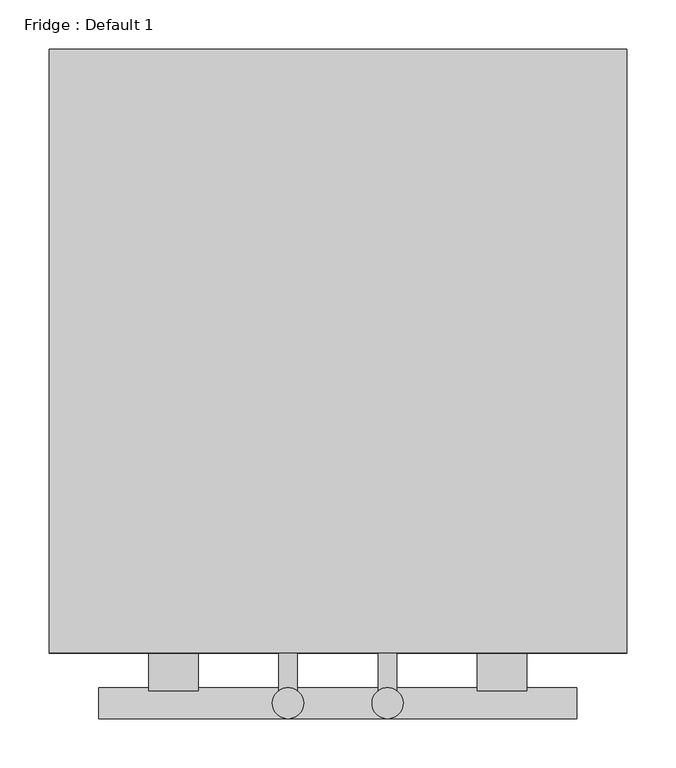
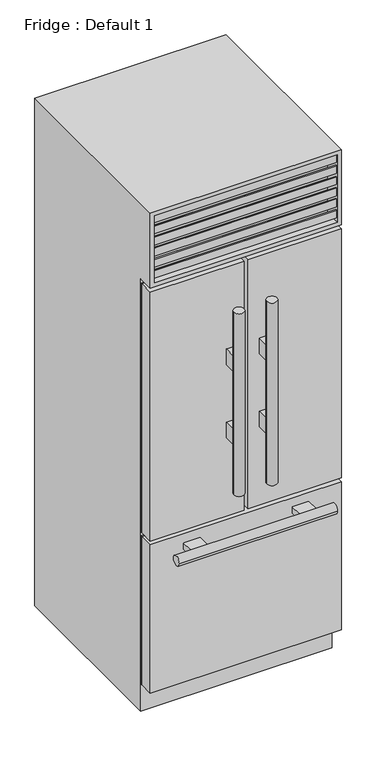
"""IFC4 building model written with IfcOpenShell, lengths in millimetres: proxy geometry, Fridge : Default 1."""

from ifc_helpers import new_model, si_unit, frame, origin, place, context, project, spatial, polyline, circle_curve, ellipse_curve, outline, extrude, faceted_brep, source, transform, mapped, element, save
from ifc_brep_helpers import plane_surface, cylinder_surface, advanced_brep


def fridge_default_1_af30f6d3(model_context):
    return source(origin(), model_context, "Body", "SolidModel", [
        extrude(outline(polyline([(-294.4915242, -671.5), (-6.35, -671.5), (-6.35, -715.95), (-294.4915242, -715.95), (-294.4915242, -671.5)])), frame((0.0, 0.0, 584.2), z_axis=(0.0, 0.0, 1.0), x_axis=(1.0, 0.0, 0.0)), (0.0, 0.0, 1.0), 809.625),
        extrude(outline(polyline([(6.35, -671.5), (294.4915242, -671.5), (294.4915242, -715.95), (6.35, -715.95), (6.35, -671.5)])), frame((0.0, 0.0, 584.2), z_axis=(0.0, 0.0, 1.0), x_axis=(1.0, 0.0, 0.0)), (0.0, 0.0, 1.0), 809.625),
        extrude(outline(polyline([(-294.4915242, -671.5), (294.4915242, -671.5), (294.4915242, -715.95), (-294.4915242, -715.95), (-294.4915242, -671.5)])), frame((0.0, 0.0, 88.9), z_axis=(0.0, 0.0, 1.0), x_axis=(1.0, 0.0, 0.0)), (0.0, 0.0, 1.0), 482.6),
        faceted_brep([(294.4915242, -715.95, 1651.0), (-294.4915242, -715.95, 1651.0), (-294.4915242, -715.95, 1406.525), (294.4915242, -715.95, 1406.525), (281.7915242, -715.95, 1638.3), (281.7915242, -715.95, 1419.225), (-281.7915242, -715.95, 1419.225), (-281.7915242, -715.95, 1638.3), (294.4915242, -100.0, 1651.0), (-294.4915242, -100.0, 1651.0), (-294.4915242, -100.0, 0.0), (-294.4915242, -665.15, 0.0), (-294.4915242, -665.15, 1406.525), (294.4915242, -665.15, 1406.525), (294.4915242, -665.15, 0.0), (294.4915242, -100.0, 0.0), (-281.7915242, -665.15, 1638.3), (281.7915242, -665.15, 1638.3), (-281.7915242, -665.15, 1419.225), (281.7915242, -665.15, 1419.225)], [[[0, 1, 2, 3], [4, 5, 6, 7]], [[1, 0, 8, 9]], [[2, 1, 9, 10, 11, 12]], [[3, 2, 12, 13]], [[8, 0, 3, 13, 14, 15]], [[4, 7, 16, 17]], [[7, 6, 18, 16]], [[6, 5, 19, 18]], [[5, 4, 17, 19]], [[15, 14, 11, 10]], [[9, 8, 15, 10]], [[17, 16, 18, 19]], [[11, 14, 13, 12]]]),
        extrude(outline(polyline([(-665.15, 1419.225), (-712.775, 1431.9860803), (-712.775, 1457.3860803), (-709.6, 1457.3860803), (-709.6, 1434.5368938), (-665.15, 1422.6265522), (-665.15, 1419.225)])), frame((-281.7915242, 0.0, 0.0), z_axis=(1.0, 0.0, 0.0), x_axis=(0.0, 1.0, 0.0)), (0.0, 0.0, 1.0), 563.5830484),
        extrude(outline(polyline([(-665.15, 1455.4077839), (-712.775, 1468.1688642), (-712.775, 1493.5688642), (-709.6, 1493.5688642), (-709.6, 1470.7196777), (-665.15, 1458.8093361), (-665.15, 1455.4077839)])), frame((-281.7915242, 0.0, 0.0), z_axis=(1.0, 0.0, 0.0), x_axis=(0.0, 1.0, 0.0)), (0.0, 0.0, 1.0), 563.5830484),
        extrude(outline(polyline([(-665.15, 1491.5905679), (-712.775, 1504.3516482), (-712.775, 1529.7516482), (-709.6, 1529.7516482), (-709.6, 1506.9024616), (-665.15, 1494.99212), (-665.15, 1491.5905679)])), frame((-281.7915242, 0.0, 0.0), z_axis=(1.0, 0.0, 0.0), x_axis=(0.0, 1.0, 0.0)), (0.0, 0.0, 1.0), 563.5830484),
        extrude(outline(polyline([(-665.15, 1527.7733518), (-712.775, 1540.5344321), (-712.775, 1565.9344321), (-709.6, 1565.9344321), (-709.6, 1543.0852456), (-665.15, 1531.174904), (-665.15, 1527.7733518)])), frame((-281.7915242, 0.0, 0.0), z_axis=(1.0, 0.0, 0.0), x_axis=(0.0, 1.0, 0.0)), (0.0, 0.0, 1.0), 563.5830484),
        extrude(outline(polyline([(-665.15, 1563.9561358), (-712.775, 1576.7172161), (-712.775, 1602.1172161), (-709.6, 1602.1172161), (-709.6, 1579.2680295), (-665.15, 1567.3576879), (-665.15, 1563.9561358)])), frame((-281.7915242, 0.0, 0.0), z_axis=(1.0, 0.0, 0.0), x_axis=(0.0, 1.0, 0.0)), (0.0, 0.0, 1.0), 563.5830484),
        extrude(outline(polyline([(-665.15, 1600.1389197), (-712.775, 1612.9), (-712.775, 1638.3), (-709.6, 1638.3), (-709.6, 1615.4508135), (-665.15, 1603.5404719), (-665.15, 1600.1389197)])), frame((-281.7915242, 0.0, 0.0), z_axis=(1.0, 0.0, 0.0), x_axis=(0.0, 1.0, 0.0)), (0.0, 0.0, 1.0), 563.5830484),
        advanced_brep(
        [(-288.1415242, -665.15, 565.15), (-288.1415242, -671.5, 565.15), (-288.1415242, -671.5, 95.25), (-288.1415242, -665.15, 95.25), (-291.3165242, -671.5, 568.325), (-291.3165242, -665.15, 568.325), (-291.3165242, -665.15, 92.075), (-291.3165242, -671.5, 92.075), (288.1415242, -671.5, 95.25), (288.1415242, -665.15, 95.25), (291.3165242, -665.15, 92.075), (291.3165242, -671.5, 92.075), (288.1415242, -671.5, 565.15), (288.1415242, -665.15, 565.15), (291.3165242, -665.15, 568.325), (291.3165242, -671.5, 568.325)],
        [
            (0, 1),
            (1, 2),
            (2, 3),
            (3, 0),
            (4, 5, ellipse_curve(frame((-291.3165242, -668.325, 568.325), z_axis=(-0.7071067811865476, 0.0, -0.7071067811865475), x_axis=(-0.7071067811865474, 0.0, 0.7071067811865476)), 4.4901281, 3.175)),
            (5, 6),
            (6, 7, ellipse_curve(frame((-291.3165242, -668.325, 92.075), z_axis=(-0.7071067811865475, 0.0, 0.7071067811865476), x_axis=(0.7071067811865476, 0.0, 0.7071067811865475)), 4.4901281, 3.175)),
            (7, 4),
            (2, 8),
            (8, 9),
            (9, 3),
            (6, 10),
            (10, 11, ellipse_curve(frame((291.3165242, -668.325, 92.075), z_axis=(-0.7071067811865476, 0.0, -0.7071067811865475), x_axis=(-0.7071067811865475, 0.0, 0.7071067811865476)), 4.4901281, 3.175)),
            (11, 7),
            (8, 12),
            (12, 13),
            (13, 9),
            (10, 14),
            (14, 15, ellipse_curve(frame((291.3165242, -668.325, 568.325), z_axis=(0.7071067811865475, 0.0, -0.7071067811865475), x_axis=(-0.7071067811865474, 0.0, -0.7071067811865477)), 4.4901281, 3.175)),
            (15, 11),
            (12, 1),
            (0, 13),
            (5, 14),
            (4, 15),
        ],
        [
            plane_surface(frame((-288.1415242, -671.5, 565.15), z_axis=(1.0, 0.0, 0.0), x_axis=(0.0, 0.0, -1.0))),
            cylinder_surface(frame((-291.3165242, -668.325, 571.5), z_axis=(0.0, 0.0, 1.0), x_axis=(0.0, -1.0, 0.0)), 3.175),
            plane_surface(frame((-288.1415242, -671.5, 95.25), z_axis=(0.0, 0.0, 1.0), x_axis=(1.0, 0.0, 0.0))),
            cylinder_surface(frame((-294.4915242, -668.325, 92.075), z_axis=(-1.0, 0.0, 0.0), x_axis=(0.0, -1.0, 0.0)), 3.175),
            plane_surface(frame((288.1415242, -671.5, 95.25), z_axis=(-1.0, 0.0, 0.0), x_axis=(0.0, 0.0, 1.0))),
            cylinder_surface(frame((291.3165242, -668.325, 88.9), z_axis=(0.0, 0.0, -1.0), x_axis=(0.0, -1.0, 0.0)), 3.175),
            plane_surface(frame((288.1415242, -671.5, 565.15), z_axis=(0.0, 0.0, -1.0), x_axis=(-1.0, 0.0, 0.0))),
            plane_surface(frame((288.1415242, -665.15, 565.15), z_axis=(0.0, 1.0, 0.0), x_axis=(-1.0, 0.0, 0.0))),
            cylinder_surface(frame((294.4915242, -668.325, 568.325), z_axis=(1.0, 0.0, 0.0), x_axis=(0.0, -1.0, 0.0)), 3.175),
            plane_surface(frame((291.3165242, -671.5, 568.325), z_axis=(0.0, -1.0, 0.0), x_axis=(-1.0, 0.0, 0.0))),
        ],
        [
            (0, [[1, 2, 3, 4]]),
            (1, [[5, 6, 7, 8]]),
            (2, [[-3, 9, 10, 11]]),
            (3, [[-7, 12, 13, 14]]),
            (4, [[-10, 15, 16, 17]]),
            (5, [[-13, 18, 19, 20]]),
            (6, [[-16, 21, -1, 22]]),
            (7, [[23, -18, -12, -6], [-11, -17, -22, -4]]),
            (8, [[-19, -23, -5, 24]]),
            (9, [[-14, -20, -24, -8], [-21, -15, -9, -2]]),
        ],
    ),
        advanced_brep(
        [(12.7, -665.15, 1387.475), (12.7, -671.5, 1387.475), (12.7, -671.5, 590.55), (12.7, -665.15, 590.55), (9.525, -671.5, 1390.65), (9.525, -665.15, 1390.65), (9.525, -665.15, 587.375), (9.525, -671.5, 587.375), (288.1415242, -671.5, 590.55), (288.1415242, -665.15, 590.55), (291.3165242, -665.15, 587.375), (291.3165242, -671.5, 587.375), (288.1415242, -671.5, 1387.475), (288.1415242, -665.15, 1387.475), (291.3165242, -665.15, 1390.65), (291.3165242, -671.5, 1390.65)],
        [
            (0, 1),
            (1, 2),
            (2, 3),
            (3, 0),
            (4, 5, ellipse_curve(frame((9.525, -668.325, 1390.65), z_axis=(-0.7071067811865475, 0.0, -0.7071067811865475), x_axis=(-0.7071067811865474, 0.0, 0.7071067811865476)), 4.4901281, 3.175)),
            (5, 6),
            (6, 7, ellipse_curve(frame((9.525, -668.325, 587.375), z_axis=(-0.7071067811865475, 0.0, 0.7071067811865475), x_axis=(0.7071067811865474, 0.0, 0.7071067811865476)), 4.4901281, 3.175)),
            (7, 4),
            (2, 8),
            (8, 9),
            (9, 3),
            (6, 10),
            (10, 11, ellipse_curve(frame((291.3165242, -668.325, 587.375), z_axis=(-0.7071067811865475, 0.0, -0.7071067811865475), x_axis=(-0.7071067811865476, 0.0, 0.7071067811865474)), 4.4901281, 3.175)),
            (11, 7),
            (8, 12),
            (12, 13),
            (13, 9),
            (10, 14),
            (14, 15, ellipse_curve(frame((291.3165242, -668.325, 1390.65), z_axis=(0.7071067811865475, 0.0, -0.7071067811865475), x_axis=(-0.7071067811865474, 0.0, -0.7071067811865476)), 4.4901281, 3.175)),
            (15, 11),
            (12, 1),
            (0, 13),
            (5, 14),
            (4, 15),
        ],
        [
            plane_surface(frame((12.7, -671.5, 1387.475), z_axis=(1.0, 0.0, 0.0), x_axis=(0.0, 0.0, -1.0))),
            cylinder_surface(frame((9.525, -668.325, 1393.825), z_axis=(0.0, 0.0, 1.0), x_axis=(0.0, -1.0, 0.0)), 3.175),
            plane_surface(frame((12.7, -671.5, 590.55), z_axis=(0.0, 0.0, 1.0), x_axis=(1.0, 0.0, 0.0))),
            cylinder_surface(frame((6.35, -668.325, 587.375), z_axis=(-1.0, 0.0, 0.0), x_axis=(0.0, -1.0, 0.0)), 3.175),
            plane_surface(frame((288.1415242, -671.5, 590.55), z_axis=(-1.0, 0.0, 0.0), x_axis=(0.0, 0.0, 1.0))),
            cylinder_surface(frame((291.3165242, -668.325, 584.2), z_axis=(0.0, 0.0, -1.0), x_axis=(0.0, -1.0, 0.0)), 3.175),
            plane_surface(frame((288.1415242, -671.5, 1387.475), z_axis=(0.0, 0.0, -1.0), x_axis=(-1.0, 0.0, 0.0))),
            plane_surface(frame((288.1415242, -665.15, 1387.475), z_axis=(0.0, 1.0, 0.0), x_axis=(-1.0, 0.0, 0.0))),
            cylinder_surface(frame((294.4915242, -668.325, 1390.65), z_axis=(1.0, 0.0, 0.0), x_axis=(0.0, -1.0, 0.0)), 3.175),
            plane_surface(frame((291.3165242, -671.5, 1390.65), z_axis=(0.0, -1.0, 0.0), x_axis=(-1.0, 0.0, 0.0))),
        ],
        [
            (0, [[1, 2, 3, 4]]),
            (1, [[5, 6, 7, 8]]),
            (2, [[-3, 9, 10, 11]]),
            (3, [[-7, 12, 13, 14]]),
            (4, [[-10, 15, 16, 17]]),
            (5, [[-13, 18, 19, 20]]),
            (6, [[-16, 21, -1, 22]]),
            (7, [[23, -18, -12, -6], [-11, -17, -22, -4]]),
            (8, [[-19, -23, -5, 24]]),
            (9, [[-14, -20, -24, -8], [-21, -15, -9, -2]]),
        ],
    ),
        advanced_brep(
        [(-288.1415242, -665.15, 1387.475), (-288.1415242, -671.5, 1387.475), (-288.1415242, -671.5, 590.55), (-288.1415242, -665.15, 590.55), (-291.3165242, -671.5, 1390.65), (-291.3165242, -665.15, 1390.65), (-291.3165242, -665.15, 587.375), (-291.3165242, -671.5, 587.375), (-12.7, -671.5, 590.55), (-12.7, -665.15, 590.55), (-9.525, -665.15, 587.375), (-9.525, -671.5, 587.375), (-12.7, -671.5, 1387.475), (-12.7, -665.15, 1387.475), (-9.525, -665.15, 1390.65), (-9.525, -671.5, 1390.65)],
        [
            (0, 1),
            (1, 2),
            (2, 3),
            (3, 0),
            (4, 5, ellipse_curve(frame((-291.3165242, -668.325, 1390.65), z_axis=(-0.7071067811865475, 0.0, -0.7071067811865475), x_axis=(-0.7071067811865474, 0.0, 0.7071067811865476)), 4.4901281, 3.175)),
            (5, 6),
            (6, 7, ellipse_curve(frame((-291.3165242, -668.325, 587.375), z_axis=(-0.7071067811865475, 0.0, 0.7071067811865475), x_axis=(0.7071067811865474, 0.0, 0.7071067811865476)), 4.4901281, 3.175)),
            (7, 4),
            (2, 8),
            (8, 9),
            (9, 3),
            (6, 10),
            (10, 11, ellipse_curve(frame((-9.525, -668.325, 587.375), z_axis=(-0.7071067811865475, 0.0, -0.7071067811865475), x_axis=(-0.7071067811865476, 0.0, 0.7071067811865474)), 4.4901281, 3.175)),
            (11, 7),
            (8, 12),
            (12, 13),
            (13, 9),
            (10, 14),
            (14, 15, ellipse_curve(frame((-9.525, -668.325, 1390.65), z_axis=(0.7071067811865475, 0.0, -0.7071067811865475), x_axis=(-0.7071067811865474, 0.0, -0.7071067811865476)), 4.4901281, 3.175)),
            (15, 11),
            (12, 1),
            (0, 13),
            (5, 14),
            (4, 15),
        ],
        [
            plane_surface(frame((-288.1415242, -671.5, 1387.475), z_axis=(1.0, 0.0, 0.0), x_axis=(0.0, 0.0, -1.0))),
            cylinder_surface(frame((-291.3165242, -668.325, 1393.825), z_axis=(0.0, 0.0, 1.0), x_axis=(0.0, -1.0, 0.0)), 3.175),
            plane_surface(frame((-288.1415242, -671.5, 590.55), z_axis=(0.0, 0.0, 1.0), x_axis=(1.0, 0.0, 0.0))),
            cylinder_surface(frame((-294.4915242, -668.325, 587.375), z_axis=(-1.0, 0.0, 0.0), x_axis=(0.0, -1.0, 0.0)), 3.175),
            plane_surface(frame((-12.7, -671.5, 590.55), z_axis=(-1.0, 0.0, 0.0), x_axis=(0.0, 0.0, 1.0))),
            cylinder_surface(frame((-9.525, -668.325, 584.2), z_axis=(0.0, 0.0, -1.0), x_axis=(0.0, -1.0, 0.0)), 3.175),
            plane_surface(frame((-12.7, -671.5, 1387.475), z_axis=(0.0, 0.0, -1.0), x_axis=(-1.0, 0.0, 0.0))),
            plane_surface(frame((-12.7, -665.15, 1387.475), z_axis=(0.0, 1.0, 0.0), x_axis=(-1.0, 0.0, 0.0))),
            cylinder_surface(frame((-6.35, -668.325, 1390.65), z_axis=(1.0, 0.0, 0.0), x_axis=(0.0, -1.0, 0.0)), 3.175),
            plane_surface(frame((-9.525, -671.5, 1390.65), z_axis=(0.0, -1.0, 0.0), x_axis=(-1.0, 0.0, 0.0))),
        ],
        [
            (0, [[1, 2, 3, 4]]),
            (1, [[5, 6, 7, 8]]),
            (2, [[-3, 9, 10, 11]]),
            (3, [[-7, 12, 13, 14]]),
            (4, [[-10, 15, 16, 17]]),
            (5, [[-13, 18, 19, 20]]),
            (6, [[-16, 21, -1, 22]]),
            (7, [[23, -18, -12, -6], [-11, -17, -22, -4]]),
            (8, [[-19, -23, -5, 24]]),
            (9, [[-14, -20, -24, -8], [-21, -15, -9, -2]]),
        ],
    ),
        advanced_brep(
        [(-142.0915242, -715.95, 542.925), (-142.0915242, -715.95, 523.875), (-192.8915242, -715.95, 523.875), (-192.8915242, -715.95, 542.925), (142.0915242, -715.95, 542.925), (192.8915242, -715.95, 542.925), (192.8915242, -715.95, 523.875), (142.0915242, -715.95, 523.875), (-142.0915242, -754.4241958, 542.925), (-142.0915242, -751.2491958, 533.4), (-142.0915242, -754.4241958, 523.875), (-192.8915242, -754.4241958, 523.875), (-192.8915242, -751.2491958, 533.4), (-192.8915242, -754.4241958, 542.925), (142.0915242, -754.4241958, 542.925), (192.8915242, -754.4241958, 542.925), (192.8915242, -751.2491958, 533.4), (192.8915242, -754.4241958, 523.875), (142.0915242, -754.4241958, 523.875), (142.0915242, -751.2491958, 533.4), (243.6915242, -782.9991958, 533.4), (243.6915242, -751.2491958, 533.4), (-243.6915242, -782.9991958, 533.4), (-243.6915242, -751.2491958, 533.4)],
        [
            (0, 1),
            (1, 2),
            (2, 3),
            (3, 0),
            (4, 5),
            (5, 6),
            (6, 7),
            (7, 4),
            (0, 8),
            (8, 9, circle_curve(frame((-142.0915242, -767.1241958, 533.4), z_axis=(-1.0, 0.0, 0.0), x_axis=(0.0, 1.0, 0.0)), 15.875)),
            (9, 10, circle_curve(frame((-142.0915242, -767.1241958, 533.4), z_axis=(-1.0, 0.0, 0.0), x_axis=(0.0, 1.0, 0.0)), 15.875)),
            (10, 1),
            (10, 11),
            (11, 2),
            (11, 12, circle_curve(frame((-192.8915242, -767.1241958, 533.4), z_axis=(1.0, 0.0, 0.0), x_axis=(0.0, 1.0, 0.0)), 15.875)),
            (12, 13, circle_curve(frame((-192.8915242, -767.1241958, 533.4), z_axis=(1.0, 0.0, 0.0), x_axis=(0.0, 1.0, 0.0)), 15.875)),
            (13, 3),
            (13, 8),
            (4, 14),
            (14, 15),
            (15, 5),
            (15, 16, circle_curve(frame((192.8915242, -767.1241958, 533.4), z_axis=(-1.0, 0.0, 0.0), x_axis=(0.0, 1.0, 0.0)), 15.875)),
            (16, 17, circle_curve(frame((192.8915242, -767.1241958, 533.4), z_axis=(-1.0, 0.0, 0.0), x_axis=(0.0, 1.0, 0.0)), 15.875)),
            (17, 6),
            (17, 18),
            (18, 7),
            (18, 19, circle_curve(frame((142.0915242, -767.1241958, 533.4), z_axis=(1.0, 0.0, 0.0), x_axis=(0.0, 1.0, 0.0)), 15.875)),
            (19, 14, circle_curve(frame((142.0915242, -767.1241958, 533.4), z_axis=(1.0, 0.0, 0.0), x_axis=(0.0, 1.0, 0.0)), 15.875)),
            (20, 21, circle_curve(frame((243.6915242, -767.1241958, 533.4), z_axis=(1.0, 0.0, 0.0), x_axis=(0.0, 1.0, 0.0)), 15.875)),
            (21, 20, circle_curve(frame((243.6915242, -767.1241958, 533.4), z_axis=(1.0, 0.0, 0.0), x_axis=(0.0, 1.0, 0.0)), 15.875)),
            (22, 23, circle_curve(frame((-243.6915242, -767.1241958, 533.4), z_axis=(-1.0, 0.0, 0.0), x_axis=(0.0, 1.0, 0.0)), 15.875)),
            (23, 22, circle_curve(frame((-243.6915242, -767.1241958, 533.4), z_axis=(-1.0, 0.0, 0.0), x_axis=(0.0, 1.0, 0.0)), 15.875)),
            (20, 22),
            (23, 12),
            (9, 19),
            (16, 21),
        ],
        [
            plane_surface(frame((-142.0915242, -715.95, 542.925), z_axis=(0.0, 1.0, 0.0), x_axis=(0.0, 0.0, -1.0))),
            plane_surface(frame((-142.0915242, -715.95, 542.925), z_axis=(1.0, 0.0, 0.0), x_axis=(0.0, -1.0, 0.0))),
            plane_surface(frame((-142.0915242, -715.95, 523.875), z_axis=(0.0, 0.0, -1.0), x_axis=(0.0, -1.0, 0.0))),
            plane_surface(frame((-192.8915242, -715.95, 523.875), z_axis=(-1.0, 0.0, 0.0), x_axis=(0.0, -1.0, 0.0))),
            plane_surface(frame((-192.8915242, -715.95, 542.925), z_axis=(0.0, 0.0, 1.0), x_axis=(0.0, -1.0, 0.0))),
            plane_surface(frame((142.0915242, -715.95, 542.925), z_axis=(0.0, 0.0, 1.0), x_axis=(0.0, -1.0, 0.0))),
            plane_surface(frame((192.8915242, -715.95, 542.925), z_axis=(1.0, 0.0, 0.0), x_axis=(0.0, -1.0, 0.0))),
            plane_surface(frame((192.8915242, -715.95, 523.875), z_axis=(0.0, 0.0, -1.0), x_axis=(0.0, -1.0, 0.0))),
            plane_surface(frame((142.0915242, -715.95, 523.875), z_axis=(-1.0, 0.0, 0.0), x_axis=(0.0, -1.0, 0.0))),
            plane_surface(frame((243.6915242, -751.2491958, 533.4), z_axis=(1.0, 0.0, 0.0), x_axis=(0.0, 0.0, 1.0))),
            plane_surface(frame((-243.6915242, -751.2491958, 533.4), z_axis=(-1.0, 0.0, 0.0), x_axis=(0.0, 0.0, -1.0))),
            cylinder_surface(frame((-243.6915242, -767.1241958, 533.4), z_axis=(1.0, 0.0, 0.0), x_axis=(0.0, 1.0, 0.0)), 15.875),
        ],
        [
            (0, [[1, 2, 3, 4]]),
            (0, [[5, 6, 7, 8]]),
            (1, [[-1, 9, 10, 11, 12]]),
            (2, [[-2, -12, 13, 14]]),
            (3, [[-3, -14, 15, 16, 17]]),
            (4, [[-4, -17, 18, -9]]),
            (5, [[-5, 19, 20, 21]]),
            (6, [[-6, -21, 22, 23, 24]]),
            (7, [[-7, -24, 25, 26]]),
            (8, [[-8, -26, 27, 28, -19]]),
            (9, [[29, 30]]),
            (10, [[31, 32]]),
            (11, [[-29, 33, -32, 34, -15, -13, -11, 35, -27, -25, -23, 36]]),
            (11, [[-30, -36, -22, -20, -28, -35, -10, -18, -16, -34, -31, -33]]),
        ],
    ),
        advanced_brep(
        [(34.925, -767.1241958, 1279.525), (66.675, -767.1241958, 1279.525), (34.925, -767.1241958, 685.8), (66.675, -767.1241958, 685.8), (60.325, -754.4241958, 1076.325), (60.325, -754.4241958, 1127.125), (41.275, -754.4241958, 1127.125), (41.275, -754.4241958, 1076.325), (60.325, -754.4241958, 838.2), (60.325, -754.4241958, 889.0), (41.275, -754.4241958, 889.0), (41.275, -754.4241958, 838.2), (60.325, -715.95, 1127.125), (60.325, -715.95, 1076.325), (41.275, -715.95, 1076.325), (41.275, -715.95, 1127.125), (60.325, -715.95, 889.0), (60.325, -715.95, 838.2), (41.275, -715.95, 838.2), (41.275, -715.95, 889.0)],
        [
            (0, 1, circle_curve(frame((50.8, -767.1241958, 1279.525), z_axis=(0.0, 0.0, 1.0), x_axis=(1.0, 0.0, 0.0)), 15.875)),
            (1, 0, circle_curve(frame((50.8, -767.1241958, 1279.525), z_axis=(0.0, 0.0, 1.0), x_axis=(1.0, 0.0, 0.0)), 15.875)),
            (2, 3, circle_curve(frame((50.8, -767.1241958, 685.8), z_axis=(0.0, 0.0, -1.0), x_axis=(1.0, 0.0, 0.0)), 15.875)),
            (3, 2, circle_curve(frame((50.8, -767.1241958, 685.8), z_axis=(0.0, 0.0, -1.0), x_axis=(1.0, 0.0, 0.0)), 15.875)),
            (0, 2),
            (3, 1),
            (4, 5),
            (5, 6, circle_curve(frame((50.8, -767.1241958, 1127.125), z_axis=(0.0, 0.0, 1.0), x_axis=(1.0, 0.0, 0.0)), 15.875)),
            (6, 7),
            (7, 4, circle_curve(frame((50.8, -767.1241958, 1076.325), z_axis=(0.0, 0.0, -1.0), x_axis=(1.0, 0.0, 0.0)), 15.875)),
            (8, 9),
            (9, 10, circle_curve(frame((50.8, -767.1241958, 889.0), z_axis=(0.0, 0.0, 1.0), x_axis=(1.0, 0.0, 0.0)), 15.875)),
            (10, 11),
            (11, 8, circle_curve(frame((50.8, -767.1241958, 838.2), z_axis=(0.0, 0.0, -1.0), x_axis=(1.0, 0.0, 0.0)), 15.875)),
            (12, 13),
            (13, 14),
            (14, 15),
            (15, 12),
            (16, 17),
            (17, 18),
            (18, 19),
            (19, 16),
            (12, 5),
            (4, 13),
            (7, 14),
            (6, 15),
            (16, 9),
            (8, 17),
            (11, 18),
            (10, 19),
        ],
        [
            plane_surface(frame((66.675, -767.1241958, 1279.525), z_axis=(0.0, 0.0, 1.0), x_axis=(0.0, 1.0, 0.0))),
            plane_surface(frame((66.675, -767.1241958, 685.8), z_axis=(0.0, 0.0, -1.0), x_axis=(0.0, -1.0, 0.0))),
            cylinder_surface(frame((50.8, -767.1241958, 685.8), z_axis=(0.0, 0.0, 1.0), x_axis=(1.0, 0.0, 0.0)), 15.875),
            plane_surface(frame((60.325, -715.95, 1127.125), z_axis=(0.0, 1.0, 0.0), x_axis=(0.0, 0.0, -1.0))),
            plane_surface(frame((60.325, -715.95, 1127.125), z_axis=(1.0, 0.0, 0.0), x_axis=(0.0, -1.0, 0.0))),
            plane_surface(frame((60.325, -715.95, 1076.325), z_axis=(0.0, 0.0, -1.0), x_axis=(0.0, -1.0, 0.0))),
            plane_surface(frame((41.275, -715.95, 1076.325), z_axis=(-1.0, 0.0, 0.0), x_axis=(0.0, -1.0, 0.0))),
            plane_surface(frame((41.275, -715.95, 1127.125), z_axis=(0.0, 0.0, 1.0), x_axis=(0.0, -1.0, 0.0))),
            plane_surface(frame((60.325, -715.95, 889.0), z_axis=(1.0, 0.0, 0.0), x_axis=(0.0, -1.0, 0.0))),
            plane_surface(frame((60.325, -715.95, 838.2), z_axis=(0.0, 0.0, -1.0), x_axis=(0.0, -1.0, 0.0))),
            plane_surface(frame((41.275, -715.95, 838.2), z_axis=(-1.0, 0.0, 0.0), x_axis=(0.0, -1.0, 0.0))),
            plane_surface(frame((41.275, -715.95, 889.0), z_axis=(0.0, 0.0, 1.0), x_axis=(0.0, -1.0, 0.0))),
        ],
        [
            (0, [[1, 2]]),
            (1, [[3, 4]]),
            (2, [[-1, 5, -4, 6]]),
            (2, [[-2, -6, -3, -5], [7, 8, 9, 10], [11, 12, 13, 14]]),
            (3, [[15, 16, 17, 18]]),
            (3, [[19, 20, 21, 22]]),
            (4, [[-15, 23, -7, 24]]),
            (5, [[-16, -24, -10, 25]]),
            (6, [[-17, -25, -9, 26]]),
            (7, [[-18, -26, -8, -23]]),
            (8, [[-19, 27, -11, 28]]),
            (9, [[-20, -28, -14, 29]]),
            (10, [[-21, -29, -13, 30]]),
            (11, [[-22, -30, -12, -27]]),
        ],
    ),
        advanced_brep(
        [(-41.275, -715.95, 1127.125), (-41.275, -715.95, 1076.325), (-60.325, -715.95, 1076.325), (-60.325, -715.95, 1127.125), (-41.275, -715.95, 889.0), (-41.275, -715.95, 838.2), (-60.325, -715.95, 838.2), (-60.325, -715.95, 889.0), (-41.275, -754.4241958, 1127.125), (-41.275, -754.4241958, 1076.325), (-60.325, -754.4241958, 1076.325), (-60.325, -754.4241958, 1127.125), (-41.275, -754.4241958, 889.0), (-41.275, -754.4241958, 838.2), (-60.325, -754.4241958, 838.2), (-60.325, -754.4241958, 889.0), (-66.675, -767.1241958, 1279.525), (-34.925, -767.1241958, 1279.525), (-66.675, -767.1241958, 685.8), (-34.925, -767.1241958, 685.8)],
        [
            (0, 1),
            (1, 2),
            (2, 3),
            (3, 0),
            (4, 5),
            (5, 6),
            (6, 7),
            (7, 4),
            (0, 8),
            (8, 9),
            (9, 1),
            (9, 10, circle_curve(frame((-50.8, -767.1241958, 1076.325), z_axis=(0.0, 0.0, 1.0), x_axis=(1.0, 0.0, 0.0)), 15.875)),
            (10, 2),
            (10, 11),
            (11, 3),
            (11, 8, circle_curve(frame((-50.8, -767.1241958, 1127.125), z_axis=(0.0, 0.0, -1.0), x_axis=(1.0, 0.0, 0.0)), 15.875)),
            (4, 12),
            (12, 13),
            (13, 5),
            (13, 14, circle_curve(frame((-50.8, -767.1241958, 838.2), z_axis=(0.0, 0.0, 1.0), x_axis=(1.0, 0.0, 0.0)), 15.875)),
            (14, 6),
            (14, 15),
            (15, 7),
            (15, 12, circle_curve(frame((-50.8, -767.1241958, 889.0), z_axis=(0.0, 0.0, -1.0), x_axis=(1.0, 0.0, 0.0)), 15.875)),
            (16, 17, circle_curve(frame((-50.8, -767.1241958, 1279.525), z_axis=(0.0, 0.0, 1.0), x_axis=(1.0, 0.0, 0.0)), 15.875)),
            (17, 16, circle_curve(frame((-50.8, -767.1241958, 1279.525), z_axis=(0.0, 0.0, 1.0), x_axis=(1.0, 0.0, 0.0)), 15.875)),
            (18, 19, circle_curve(frame((-50.8, -767.1241958, 685.8), z_axis=(0.0, 0.0, -1.0), x_axis=(1.0, 0.0, 0.0)), 15.875)),
            (19, 18, circle_curve(frame((-50.8, -767.1241958, 685.8), z_axis=(0.0, 0.0, -1.0), x_axis=(1.0, 0.0, 0.0)), 15.875)),
            (16, 18),
            (19, 17),
        ],
        [
            plane_surface(frame((-41.275, -715.95, 1127.125), z_axis=(0.0, 1.0, 0.0), x_axis=(0.0, 0.0, -1.0))),
            plane_surface(frame((-41.275, -715.95, 1127.125), z_axis=(1.0, 0.0, 0.0), x_axis=(0.0, -1.0, 0.0))),
            plane_surface(frame((-41.275, -715.95, 1076.325), z_axis=(0.0, 0.0, -1.0), x_axis=(0.0, -1.0, 0.0))),
            plane_surface(frame((-60.325, -715.95, 1076.325), z_axis=(-1.0, 0.0, 0.0), x_axis=(0.0, -1.0, 0.0))),
            plane_surface(frame((-60.325, -715.95, 1127.125), z_axis=(0.0, 0.0, 1.0), x_axis=(0.0, -1.0, 0.0))),
            plane_surface(frame((-41.275, -715.95, 889.0), z_axis=(1.0, 0.0, 0.0), x_axis=(0.0, -1.0, 0.0))),
            plane_surface(frame((-41.275, -715.95, 838.2), z_axis=(0.0, 0.0, -1.0), x_axis=(0.0, -1.0, 0.0))),
            plane_surface(frame((-60.325, -715.95, 838.2), z_axis=(-1.0, 0.0, 0.0), x_axis=(0.0, -1.0, 0.0))),
            plane_surface(frame((-60.325, -715.95, 889.0), z_axis=(0.0, 0.0, 1.0), x_axis=(0.0, -1.0, 0.0))),
            plane_surface(frame((-34.925, -767.1241958, 1279.525), z_axis=(0.0, 0.0, 1.0), x_axis=(0.0, 1.0, 0.0))),
            plane_surface(frame((-34.925, -767.1241958, 685.8), z_axis=(0.0, 0.0, -1.0), x_axis=(0.0, -1.0, 0.0))),
            cylinder_surface(frame((-50.8, -767.1241958, 685.8), z_axis=(0.0, 0.0, 1.0), x_axis=(1.0, 0.0, 0.0)), 15.875),
        ],
        [
            (0, [[1, 2, 3, 4]]),
            (0, [[5, 6, 7, 8]]),
            (1, [[-1, 9, 10, 11]]),
            (2, [[-2, -11, 12, 13]]),
            (3, [[-3, -13, 14, 15]]),
            (4, [[-4, -15, 16, -9]]),
            (5, [[-5, 17, 18, 19]]),
            (6, [[-6, -19, 20, 21]]),
            (7, [[-7, -21, 22, 23]]),
            (8, [[-8, -23, 24, -17]]),
            (9, [[25, 26]]),
            (10, [[27, 28]]),
            (11, [[-25, 29, -28, 30]]),
            (11, [[-26, -30, -27, -29], [-10, -16, -14, -12], [-18, -24, -22, -20]]),
        ],
    ),
    ])


if __name__ == "__main__":
    model = new_model("IFC4")
    model_context = context("Model", 3, world=origin())
    ifc_project = project(units=[si_unit("LENGTHUNIT", "METRE", prefix="MILLI")], contexts=[model_context])
    site = spatial("IfcSite", under=ifc_project)
    building = spatial("IfcBuilding", under=site)
    placement = place(None, origin())
    fridge_default_1_shape = fridge_default_1_af30f6d3(model_context)
    element("IfcBuildingElementProxy", 1, Name="Fridge : Default 1", ObjectType="Fridge : Default 1", at=placement, inside=building, context=model_context, shape_type="MappedRepresentation", body=[
        mapped(fridge_default_1_shape, transform((0.0, 0.0, 0.0), x_axis=(1.0, 0.0, 0.0), y_axis=(0.0, 1.0, 0.0), z_axis=(0.0, 0.0, 1.0))),
    ])
    save(model, "model.ifc")
